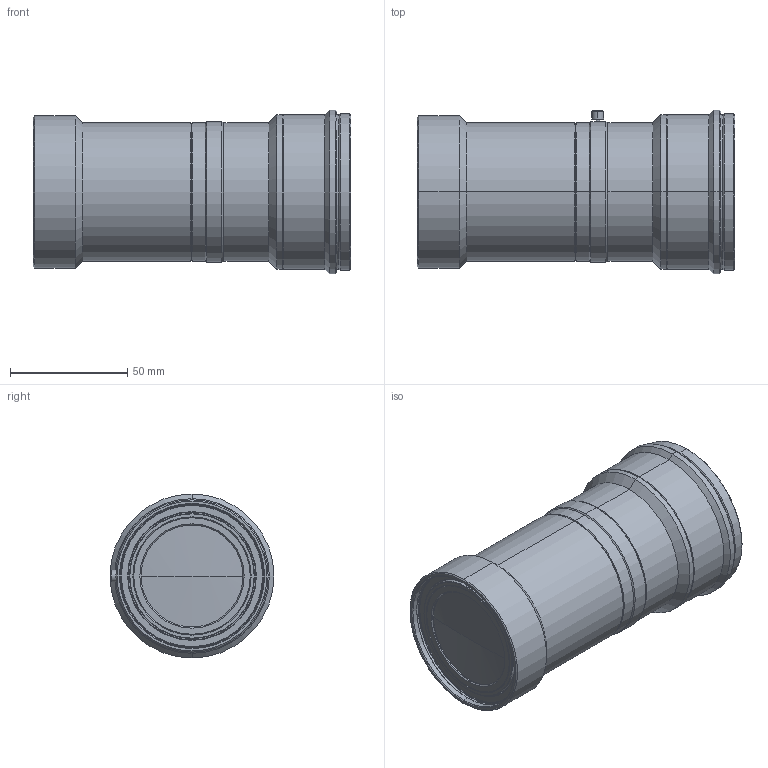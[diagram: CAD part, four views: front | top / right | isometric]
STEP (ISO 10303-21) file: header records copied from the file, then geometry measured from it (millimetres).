
FILE_DESCRIPTION (( 'STEP AP214' ), '1' );
FILE_NAME ('VS-L12028-3.3_M67S.STEP', '2019-06-03T00:15:08', ( '' ), ( '' ), 'SwSTEP 2.0', 'SolidWorks 2018', '' );
FILE_SCHEMA (( 'AUTOMOTIVE_DESIGN' ));
Length unit declared in the file: millimetre
Products named in the file (1): VS-L12028-3.3_M67S
Bounding box: 135.5 x 70 x 70 mm (x, y, z)
Volume: 388963.3 mm3; surface area: 38081.8 mm2
Topology: 1 solids, 1 shells, 127 faces, 256 edges, 148 vertices
Faces by surface type: cone 66, cylinder 40, plane 17, sphere 4
Entity records: 3356 total; most frequent: DIRECTION 658, CARTESIAN_POINT 564, ORIENTED_EDGE 512, AXIS2_PLACEMENT_3D 276, EDGE_CURVE 256, VERTEX_POINT 148, CIRCLE 148, EDGE_LOOP 144
